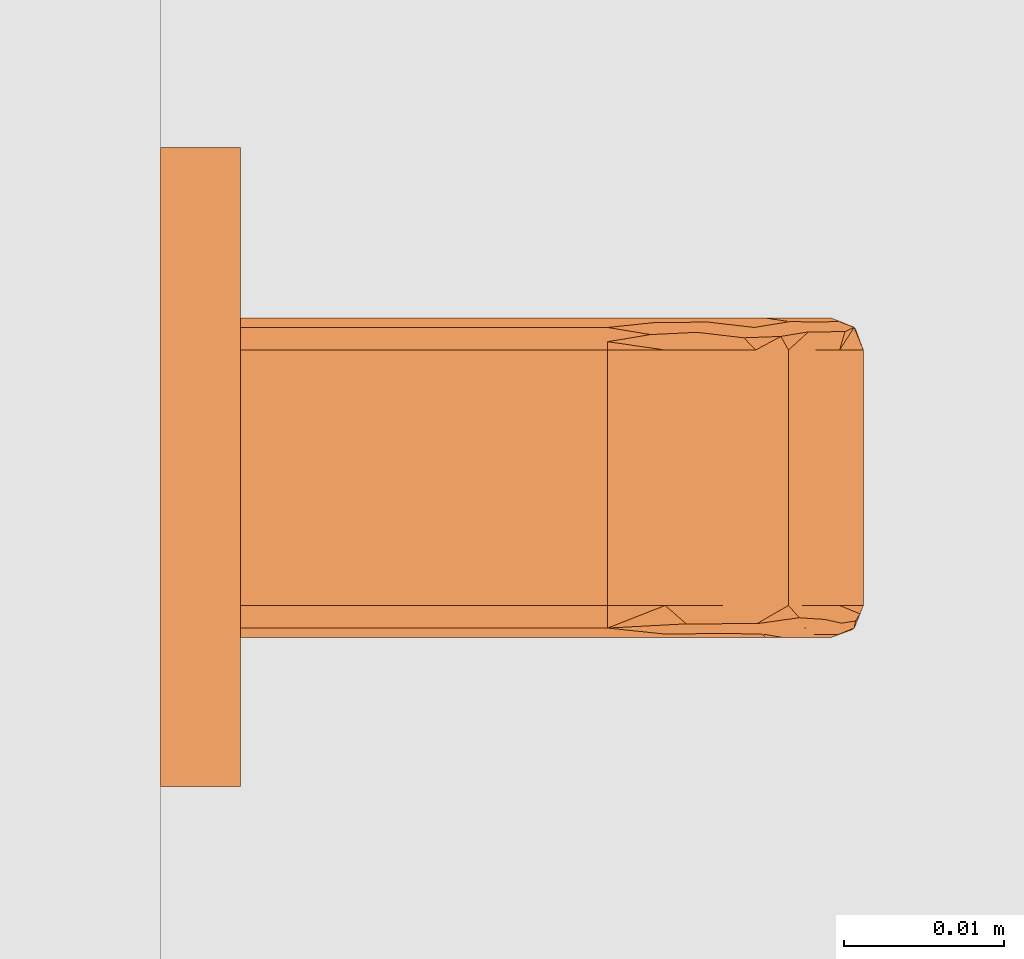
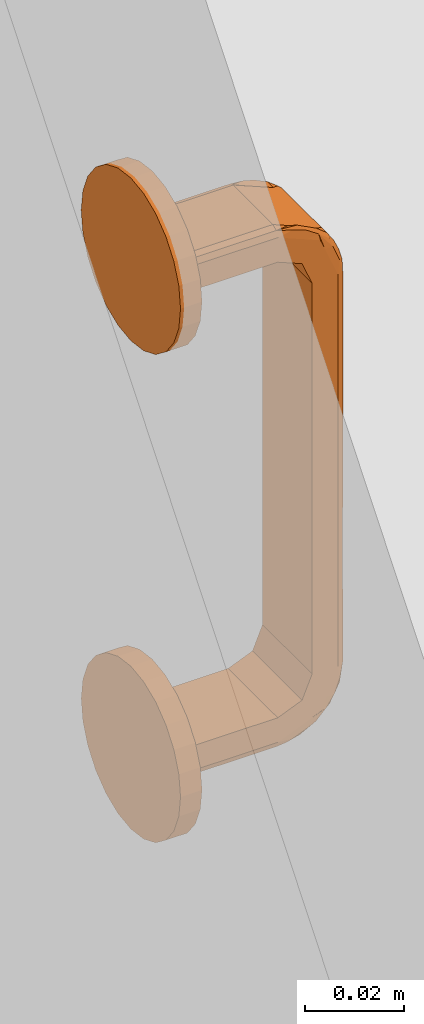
# One storey, part 51 of 67: 1 proxy.
"""IFC4 building model written with IfcOpenShell, lengths in millimetres."""

from ifc_helpers import new_model, entity, si_unit, converted_unit, direction, frame, origin, place, context, subcontext, project, spatial, polygons, source, transform, mapped, material, type_object, type_shapes, element, save


model = new_model("IFC4")

# Units and contexts
model_context = context("Model", 3, precision=0.01, world=origin(), true_north=direction((0.0, 1.0)))
body_context = subcontext(model_context, "Body", "Model", "MODEL_VIEW")
ifc_project = project(units=[si_unit("LENGTHUNIT", "METRE", prefix="MILLI"), si_unit("AREAUNIT", "SQUARE_METRE"), si_unit("VOLUMEUNIT", "CUBIC_METRE"), converted_unit("PLANEANGLEUNIT", "DEGREE", entity("IfcPlaneAngleMeasure", 0.017453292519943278), si_unit("PLANEANGLEUNIT", "RADIAN"), dimensions=[0, 0, 0, 0, 0, 0, 0])], contexts=[model_context])

# Site, building, storey, space
site_placement = place(None, origin())
site = spatial("IfcSite", under=ifc_project, at=site_placement, Name="Tomtens navn", CompositionType="ELEMENT")
building_placement = place(site_placement, origin())
building = spatial("IfcBuilding", under=site, at=building_placement, Name="Byggets navn", CompositionType="ELEMENT")
storey_placement = place(building_placement, origin())
storey = spatial("IfcBuildingStorey", under=building, at=storey_placement, Name="Level 01", CompositionType="ELEMENT", Elevation=2.1993652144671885e-25)
space_placement = place(storey_placement, origin())
space = spatial("IfcSpace", under=storey, at=space_placement, Name="102", CompositionType="ELEMENT", PredefinedType="NOTDEFINED")

# Proxy
ifc_material = material(Name="Handtag, vitt", Category="Unassigned")
building_element_proxy_type = type_object("IfcBuildingElementProxyType", Name="Handtag skåp1:Handtag skåp", PredefinedType="NOTDEFINED", material=ifc_material)
shared_shape = source(origin(), body_context, "Body", "Tessellation", [
    polygons([(8.670220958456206, 4.999999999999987, 4.021099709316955), (-7.329779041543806, 4.999999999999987, 4.021099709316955), (-8.743992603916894, 4.9999999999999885, 3.435313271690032), (-9.32977904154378, 4.999999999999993, 2.021099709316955), (-9.32977904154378, 5.0000000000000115, -4.0210997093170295), (10.67022095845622, 5.0000000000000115, -4.021099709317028), (10.67022095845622, 4.999999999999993, 2.0210997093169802), (10.084434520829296, 4.9999999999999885, 3.435313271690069), (10.67022095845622, 28.000000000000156, 2.0210997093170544), (10.084434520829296, 28.000000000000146, 3.435313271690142), (8.670220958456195, 28.000000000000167, 4.0210997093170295), (8.670220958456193, 15.654960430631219, 4.02109970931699), (10.67022095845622, 17.345040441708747, 2.02109970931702), (10.08659387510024, 16.21238630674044, 3.433150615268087), (10.67022095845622, 28.000000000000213, -4.021099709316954), (10.67022095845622, 33.64193450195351, -6.358065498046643), (10.67022095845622, 35.97890029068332, -11.999999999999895), (10.67022095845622, 35.97890029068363, -107.99999999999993), (10.67022095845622, 33.641934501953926, -113.64193450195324), (10.67022095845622, 28.000000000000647, -115.97890029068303), (10.67022095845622, 4.999999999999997, -115.97890029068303), (10.67022095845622, 4.999999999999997, -122.02109970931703), (10.67022095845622, 28.000000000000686, -122.02109970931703), (10.67022095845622, 37.914414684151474, -117.91441468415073), (10.67022095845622, 42.02109970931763, -107.99999999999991), (10.67022095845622, 42.0210997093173, -11.999999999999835), (10.67022095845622, 37.914414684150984, -2.085585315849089), (-9.32977904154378, 28.000000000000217, -4.021099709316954), (-9.32977904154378, 28.000000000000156, 2.02109970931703), (-9.32977904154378, 37.91441468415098, -2.085585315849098), (-9.32977904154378, 42.02109970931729, -11.999999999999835), (-9.32977904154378, 42.02109970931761, -107.99999999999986), (-9.32977904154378, 37.91441468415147, -117.91441468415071), (-9.32977904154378, 28.00000000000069, -122.02109970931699), (-9.32977904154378, 4.999999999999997, -122.021099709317), (-9.32977904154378, 4.999999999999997, -115.978900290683), (-9.32977904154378, 28.000000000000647, -115.97890029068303), (-9.32977904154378, 33.641934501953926, -113.64193450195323), (-9.32977904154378, 35.97890029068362, -107.99999999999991), (-9.32977904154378, 35.978900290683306, -11.999999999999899), (-9.32977904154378, 33.64193450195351, -6.358065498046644), (-7.329779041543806, 28.00000000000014, 4.0210997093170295), (-8.743992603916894, 28.000000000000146, 3.435313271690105), (-9.32977904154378, 15.654959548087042, 2.021099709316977), (-7.3297790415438, 17.34503999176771, 4.021099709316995), (-8.741829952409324, 16.21238644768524, 3.43747262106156), (10.084434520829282, 43.43531327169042, -11.999999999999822), (8.670220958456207, 44.021099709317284, -11.999999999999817), (8.670220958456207, 39.328628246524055, -0.6713717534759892), (10.67022095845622, 31.60126528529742, 0.5294067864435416), (8.670220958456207, 41.03771385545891, -4.797469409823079), (10.084434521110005, 40.40873190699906, -2.8200071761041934), (8.670220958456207, 35.20253058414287, 1.0377138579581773), (9.809043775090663, 37.34144424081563, 0.5752165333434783), (9.818751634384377, 32.92350079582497, 2.8642465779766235), (10.67022095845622, 39.96775719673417, -7.042792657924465), (10.377327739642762, 28.000000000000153, 2.7282064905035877), (8.670220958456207, 42.529406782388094, -8.398734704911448), (9.779150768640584, 42.65191997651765, -6.400304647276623), (10.431420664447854, 34.75591670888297, 1.357514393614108), (10.447049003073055, 37.64140257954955, -0.5884869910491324), (10.67022095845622, 34.7578399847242, -0.7780892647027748), (10.453824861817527, 31.52927433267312, 2.5026982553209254), (8.670220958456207, 31.601265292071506, 2.5294067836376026), (8.670220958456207, 40.18317105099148, -2.734420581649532), (9.435587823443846, 40.00295364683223, -1.6197407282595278), (9.543801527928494, 41.59747716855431, -3.9137042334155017), (10.67022095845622, 38.941085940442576, -4.564188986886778), (10.50224699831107, 40.95405539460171, -4.794062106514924), (10.477567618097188, 42.45420227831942, -8.47617064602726), (9.193272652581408, 43.80444460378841, -11.999999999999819), (9.638611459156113, 43.538770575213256, -9.303396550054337), (10.67022095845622, 40.99442845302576, -9.521396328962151), (-7.329779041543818, 44.021099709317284, -11.999999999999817), (-8.743992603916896, 43.43531327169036, -11.999999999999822), (-7.329779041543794, 39.328628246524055, -0.6713717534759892), (-7.329779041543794, 35.20253057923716, 1.0377138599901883), (-8.743992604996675, 37.179992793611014, 0.40873192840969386), (-9.32977904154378, 40.52940677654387, -8.398734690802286), (-7.329779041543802, 41.03771385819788, -4.797469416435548), (-8.468601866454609, 40.57521654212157, -2.6585557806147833), (-8.47830971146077, 42.864246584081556, -7.076499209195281), (-9.32977904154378, 32.95720734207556, -0.03224280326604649), (-9.036885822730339, 42.728206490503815, -11.999999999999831), (-7.329779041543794, 31.601265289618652, 2.529406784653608), (-8.43870885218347, 33.59969531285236, 2.6519199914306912), (-9.090978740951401, 41.357514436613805, -5.244083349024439), (-9.106607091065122, 39.41151304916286, -2.358597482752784), (-9.32977904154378, 39.22191073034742, -5.242160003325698), (-9.113382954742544, 42.502698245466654, -8.470725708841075), (-7.32977904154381, 42.52940678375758, -8.398734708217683), (-7.329779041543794, 37.26557941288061, 0.18317105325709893), (-8.095145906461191, 36.54048464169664, 1.37463273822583), (-8.18279176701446, 38.85536792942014, -0.47819170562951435), (-9.32977904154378, 35.43581101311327, -1.0589140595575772), (-7.852830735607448, 28.00000000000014, 3.8044446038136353), (-8.29816953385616, 30.69660343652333, 3.5387705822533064), (-9.060718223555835, 31.048754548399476, 2.7104148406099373), (-9.074370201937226, 34.340507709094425, 1.5930015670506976), (-9.32977904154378, 30.478603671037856, 0.9944284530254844), (-7.32977904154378, 33.664314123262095, 1.6748639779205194), (8.670220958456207, 33.664314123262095, 1.6748639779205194), (8.670220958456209, 30.748770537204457, 2.882521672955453), (-7.32977904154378, 41.67486397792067, -6.335685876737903), (8.670220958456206, 41.67486397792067, -6.335685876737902), (8.670220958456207, 40.50174611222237, -3.503528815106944), (-7.32977904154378, 36.496471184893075, 0.5017461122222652), (8.670220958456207, 36.496471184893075, 0.5017461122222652), (-7.32977904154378, 30.83215706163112, 2.847981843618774), (8.670220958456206, 42.882521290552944, -9.251228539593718), (-7.32977904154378, 42.84798184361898, -9.167842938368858), (-7.32977904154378, 40.50174611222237, -3.503528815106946), (10.084434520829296, 43.435313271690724, -107.99999999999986), (8.670220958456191, 44.0210997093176, -107.99999999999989), (10.67022095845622, 42.02109970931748, -61.380159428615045), (8.670220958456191, 44.021099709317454, -60.0000005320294), (8.670220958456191, 44.02109970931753, -83.30992070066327), (10.67022095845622, 42.021099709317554, -84.69007971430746), (8.670220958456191, 44.021099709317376, -36.690079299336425), (10.67022095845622, 42.02109970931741, -36.690079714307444), (10.67022095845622, 42.021099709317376, -24.34503985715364), (8.670220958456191, 44.02109970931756, -95.65496088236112), (8.670220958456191, 44.02109970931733, -24.34504018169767), (10.67022095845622, 42.021099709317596, -95.65496014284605), (10.084434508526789, 43.43531328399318, -90.17251993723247), (10.67022095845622, 42.02109970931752, -73.035119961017), (10.043884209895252, 43.4747328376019, -67.20763959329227), (10.084434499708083, 43.435313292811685, -30.517560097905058), (10.084434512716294, 43.435313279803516, -43.72292802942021), (10.67022095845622, 42.021099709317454, -49.03511957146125), (10.049878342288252, 43.469044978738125, -55.46284370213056), (8.67022095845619, 44.02109970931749, -71.65496114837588), (10.18815291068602, 43.32336027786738, -78.66752152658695), (8.670220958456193, 44.02109970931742, -48.34503991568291), (-7.329779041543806, 44.0210997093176, -107.99999999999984), (-8.743992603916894, 43.43531327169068, -107.99999999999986), (-7.3297790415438, 44.021099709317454, -61.38015981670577), (-9.32977904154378, 42.021099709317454, -59.999999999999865), (-9.32977904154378, 42.02109970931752, -83.30992051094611), (-7.329779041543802, 44.02109970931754, -84.69008022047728), (-9.32977904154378, 42.02109970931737, -36.69007991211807), (-7.329779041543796, 44.021099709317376, -36.69007990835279), (-7.329779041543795, 44.02109970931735, -24.345039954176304), (-9.32977904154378, 42.02109970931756, -95.65496025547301), (-9.32977904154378, 42.02109970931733, -24.345040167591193), (-7.329779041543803, 44.021099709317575, -95.65496067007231), (-8.743992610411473, 43.43531326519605, -90.17252002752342), (-7.3297790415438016, 44.0210997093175, -73.03512001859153), (-8.783412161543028, 43.39476296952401, -67.2076399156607), (-8.743992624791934, 43.4353132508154, -30.517560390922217), (-8.74399260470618, 43.43531327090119, -43.72292838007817), (-7.329779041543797, 44.02109970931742, -49.03511986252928), (-8.777724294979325, 43.40075710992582, -55.46284405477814), (-9.32977904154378, 42.02109970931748, -71.65496025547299), (-8.632039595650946, 43.53903167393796, -78.6675217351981), (-9.32977904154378, 42.02109970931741, -48.345039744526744), (10.08443452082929, 28.0000000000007, -123.43531327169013), (8.670220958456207, 28.000000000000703, -124.02109970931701), (8.670220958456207, 39.32862824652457, -119.32862824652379), (10.67022095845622, 40.52940678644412, -111.60126528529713), (8.670220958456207, 35.202530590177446, -121.03771385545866), (10.084434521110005, 37.179992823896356, -120.4087319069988), (8.670220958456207, 41.03771385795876, -115.20253058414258), (9.809043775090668, 40.575216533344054, -117.34144424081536), (9.818751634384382, 42.864246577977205, -112.9235007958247), (10.67022095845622, 32.95720734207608, -119.96775719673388), (10.377327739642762, 42.728206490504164, -107.99999999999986), (8.670220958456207, 31.601265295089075, -122.52940678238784), (9.779150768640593, 33.5996953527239, -122.65191997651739), (10.431420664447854, 41.357514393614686, -114.7559167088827), (10.447049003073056, 39.41151300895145, -117.64140257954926), (10.67022095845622, 39.2219107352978, -114.75783998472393), (10.453824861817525, 42.50269825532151, -111.52927433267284), (8.670220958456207, 42.52940678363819, -111.60126529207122), (8.670220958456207, 37.26557941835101, -120.18317105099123), (9.43558782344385, 38.38025927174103, -120.00295364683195), (9.543801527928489, 36.08629576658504, -121.59747716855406), (10.67022095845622, 35.435811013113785, -118.9410859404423), (10.50224699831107, 35.20593789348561, -120.95405539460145), (10.477567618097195, 31.523829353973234, -122.45420227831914), (9.193272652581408, 28.000000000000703, -123.80444460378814), (9.638611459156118, 30.696603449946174, -123.538770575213), (10.67022095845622, 30.47860367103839, -120.99442845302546), (-7.329779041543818, 28.000000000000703, -124.02109970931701), (-8.743992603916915, 28.0000000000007, -123.43531327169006), (-7.329779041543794, 39.32862824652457, -119.32862824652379), (-7.329779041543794, 41.03771385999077, -115.20253057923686), (-8.743992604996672, 40.40873192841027, -117.17999279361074), (-9.32977904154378, 31.601265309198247, -120.52940677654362), (-7.329779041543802, 35.20253058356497, -121.03771385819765), (-8.468601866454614, 37.34144421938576, -120.57521654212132), (-8.478309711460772, 32.92350079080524, -122.8642465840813), (-9.32977904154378, 39.967757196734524, -112.95720734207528), (-9.036885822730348, 28.000000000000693, -122.72820649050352), (-7.329779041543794, 42.529406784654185, -111.60126528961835), (-8.438708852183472, 42.65191999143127, -113.59969531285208), (-9.090978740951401, 34.75591665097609, -121.35751443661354), (-9.106607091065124, 37.64140251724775, -119.41151304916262), (-9.32977904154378, 34.75783999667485, -119.22191073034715), (-9.113382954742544, 31.529274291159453, -122.50269824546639), (-7.329779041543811, 31.601265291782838, -122.52940678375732), (-7.329779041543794, 40.18317105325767, -117.26557941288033), (-8.095145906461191, 41.37463273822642, -116.54048464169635), (-8.182791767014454, 39.52180829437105, -118.85536792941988), (-9.32977904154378, 38.941085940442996, -115.435811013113), (-7.852830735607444, 43.804444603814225, -107.99999999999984), (-8.298169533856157, 43.53877058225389, -110.69660343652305), (-9.060718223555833, 42.710414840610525, -111.04875454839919), (-9.074370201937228, 41.59300156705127, -114.34050770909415), (-9.32977904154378, 40.99442845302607, -110.47860367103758), (-7.32977904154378, 41.6748639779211, -113.66431412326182), (8.670220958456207, 41.6748639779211, -113.66431412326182), (8.670220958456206, 42.88252167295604, -110.74877053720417), (-7.32977904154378, 33.66431412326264, -121.67486397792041), (8.670220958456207, 33.66431412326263, -121.67486397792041), (8.670220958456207, 36.4964711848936, -120.50174611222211), (-7.32977904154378, 40.50174611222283, -116.4964711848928), (8.670220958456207, 40.50174611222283, -116.4964711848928), (-7.32977904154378, 42.84798184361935, -110.83215706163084), (8.670220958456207, 30.748771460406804, -122.88252129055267), (-7.329779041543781, 30.83215706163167, -122.84798184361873), (-7.32977904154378, 36.49647118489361, -120.50174611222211), (8.670220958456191, 4.99999999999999, -124.021099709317), (10.084434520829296, 4.99999999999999, -123.43531327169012), (-8.743992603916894, 4.99999999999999, -123.43531327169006), (-7.32977904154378, 4.99999999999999, -124.02109970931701), (8.670220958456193, 17.34504139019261, -124.021099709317), (10.67022095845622, 15.65496022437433, -122.02109970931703), (10.08659387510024, 16.787613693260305, -123.43315061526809), (-9.32977904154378, 17.34504010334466, -122.02109970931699), (-7.3297790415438, 15.6549594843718, -124.021099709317), (-8.741829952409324, 16.787613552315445, -123.43747262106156)], [[[4, 5, 6, 7, 8, 1, 2, 3]], [[18, 17, 40, 39]], [[226, 223, 224, 22, 21, 36, 35, 225]], [[13, 9, 57, 10]], [[14, 13, 10]], [[11, 12, 14]], [[1, 8, 12]], [[12, 8, 14]], [[13, 14, 7]], [[14, 8, 7]], [[14, 10, 11]], [[6, 15, 16, 17, 18, 19, 20, 21, 22, 228, 23, 183, 166, 178, 24, 172, 160, 25, 124, 118, 126, 115, 130, 120, 121, 26, 73, 56, 68, 27, 62, 50, 9, 13, 7]], [[15, 6, 5, 28]], [[158, 227, 223, 226, 231, 184]], [[36, 37, 38, 39, 40, 41, 28, 5, 4, 44, 29, 100, 83, 95, 30, 89, 79, 31, 145, 141, 156, 138, 154, 139, 144, 32, 210, 193, 205, 33, 199, 189, 34, 230, 35]], [[45, 42, 96, 43]], [[46, 45, 43]], [[29, 44, 46]], [[4, 3, 44]], [[44, 3, 46]], [[45, 46, 2]], [[46, 3, 2]], [[46, 43, 29]], [[2, 1, 12, 11, 42, 45]], [[21, 20, 37, 36]], [[60, 62, 61]], [[68, 56, 69]], [[66, 65, 49]], [[55, 54, 53]], [[59, 58, 105, 51]], [[67, 51, 106, 65]], [[69, 56, 70]], [[50, 60, 63]], [[55, 64, 10]], [[59, 67, 52]], [[54, 49, 108, 53]], [[72, 71, 58]], [[54, 55, 60]], [[69, 61, 68]], [[66, 52, 67]], [[68, 61, 27]], [[55, 10, 63]], [[63, 10, 57, 9]], [[71, 48, 110, 58]], [[70, 26, 47]], [[54, 60, 61]], [[63, 9, 50]], [[54, 61, 52]], [[27, 61, 62]], [[60, 50, 62]], [[63, 60, 55]], [[10, 64, 103, 11]], [[55, 53, 102, 64]], [[66, 54, 52]], [[66, 49, 54]], [[66, 67, 65]], [[67, 59, 51]], [[69, 52, 61]], [[69, 59, 52]], [[59, 69, 70]], [[70, 72, 59]], [[73, 26, 70, 56]], [[47, 71, 72]], [[47, 72, 70]], [[59, 72, 58]], [[15, 28, 41, 16]], [[41, 40, 17, 16]], [[96, 42, 109, 85]], [[79, 87, 90]], [[86, 85, 101, 77]], [[86, 99, 98]], [[93, 77, 107, 92]], [[81, 82, 87]], [[80, 82, 81]], [[78, 95, 99]], [[87, 89, 88]], [[78, 99, 86]], [[93, 94, 78]], [[82, 91, 75]], [[81, 76, 112, 80]], [[94, 93, 92]], [[88, 78, 94]], [[95, 88, 30]], [[82, 75, 90]], [[90, 75, 84, 31]], [[43, 97, 98]], [[86, 98, 97]], [[81, 87, 88]], [[90, 31, 79]], [[94, 81, 88]], [[30, 88, 89]], [[87, 79, 89]], [[90, 87, 82]], [[75, 91, 111, 74]], [[82, 80, 104, 91]], [[93, 86, 77]], [[93, 78, 86]], [[94, 76, 81]], [[76, 94, 92]], [[78, 88, 95]], [[43, 96, 97]], [[97, 96, 85]], [[86, 97, 85]], [[98, 29, 43]], [[99, 95, 83, 100]], [[100, 98, 99]], [[100, 29, 98]], [[42, 11, 103, 64, 102, 53, 108, 49, 76, 92, 107, 77, 101, 85, 109]], [[105, 58, 110, 48, 74, 111, 91, 104, 80, 112, 76, 49, 65, 106, 51]], [[47, 26, 121, 120, 130, 129, 128]], [[124, 25, 167, 113, 125, 118]], [[118, 133, 126]], [[127, 115, 126]], [[123, 48, 71, 47, 128, 129, 134, 119]], [[113, 114, 122, 117, 125]], [[129, 130, 131]], [[115, 131, 130]], [[133, 127, 126]], [[132, 116, 127]], [[125, 117, 133]], [[116, 134, 131]], [[127, 116, 131]], [[127, 131, 115]], [[134, 129, 131]], [[132, 127, 133]], [[117, 132, 133]], [[125, 133, 118]], [[75, 74, 143, 142, 152, 151, 150]], [[146, 135, 206, 136, 147, 140]], [[140, 155, 148]], [[149, 137, 148]], [[145, 31, 84, 75, 150, 151, 156, 141]], [[136, 32, 144, 139, 147]], [[151, 152, 153]], [[137, 153, 152]], [[155, 149, 148]], [[154, 138, 149]], [[147, 139, 155]], [[138, 156, 153]], [[149, 138, 153]], [[149, 153, 137]], [[156, 151, 153]], [[154, 149, 155]], [[139, 154, 155]], [[147, 155, 140]], [[74, 48, 123, 119, 134, 116, 132, 117, 122, 114, 135, 146, 140, 148, 137, 152, 142, 143]], [[170, 172, 171]], [[178, 166, 179]], [[176, 175, 159]], [[165, 164, 163]], [[169, 168, 215, 161]], [[177, 161, 216, 175]], [[179, 166, 180]], [[160, 170, 173]], [[165, 174, 113]], [[169, 177, 162]], [[164, 159, 218, 163]], [[182, 181, 168]], [[164, 165, 170]], [[179, 171, 178]], [[176, 162, 177]], [[178, 171, 24]], [[165, 113, 173]], [[173, 113, 167, 25]], [[181, 158, 220, 168]], [[180, 23, 157]], [[164, 170, 171]], [[173, 25, 160]], [[164, 171, 162]], [[24, 171, 172]], [[170, 160, 172]], [[173, 170, 165]], [[113, 174, 213, 114]], [[165, 163, 212, 174]], [[176, 164, 162]], [[176, 159, 164]], [[176, 177, 175]], [[177, 169, 161]], [[179, 162, 171]], [[179, 169, 162]], [[169, 179, 180]], [[180, 182, 169]], [[183, 23, 180, 166]], [[157, 181, 182]], [[157, 182, 180]], [[169, 182, 168]], [[18, 39, 38, 19]], [[38, 37, 20, 19]], [[206, 135, 219, 195]], [[189, 197, 200]], [[196, 195, 211, 187]], [[196, 209, 208]], [[203, 187, 217, 202]], [[191, 192, 197]], [[190, 192, 191]], [[188, 205, 209]], [[197, 199, 198]], [[188, 209, 196]], [[203, 204, 188]], [[192, 201, 185]], [[191, 186, 222, 190]], [[204, 203, 202]], [[188, 196, 203]], [[205, 198, 33]], [[192, 185, 200]], [[200, 185, 194, 34]], [[136, 207, 208]], [[196, 208, 207]], [[191, 197, 198]], [[200, 34, 189]], [[204, 191, 198]], [[33, 198, 199]], [[197, 189, 199]], [[200, 197, 192]], [[185, 201, 221, 184]], [[192, 190, 214, 201]], [[187, 203, 196]], [[188, 204, 198]], [[204, 186, 191]], [[186, 204, 202]], [[188, 198, 205]], [[136, 206, 207]], [[207, 206, 195]], [[196, 207, 195]], [[208, 32, 136]], [[209, 205, 193, 210]], [[210, 208, 209]], [[210, 32, 208]], [[135, 114, 213, 174, 212, 163, 218, 159, 186, 202, 217, 187, 211, 195, 219]], [[215, 168, 220, 158, 184, 221, 201, 214, 190, 222, 186, 159, 175, 216, 161]], [[22, 224, 228]], [[229, 228, 224]], [[223, 227, 229]], [[227, 158, 181, 157]], [[227, 157, 229]], [[228, 229, 23]], [[229, 157, 23]], [[229, 224, 223]], [[226, 225, 231]], [[232, 231, 225]], [[35, 230, 232]], [[230, 34, 194, 185]], [[230, 185, 232]], [[231, 232, 184]], [[232, 185, 184]], [[232, 225, 35]]], closed=True),
    polygons([(-20.00000000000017, 4.999999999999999, 4.9806020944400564e-15), (-19.318516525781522, 4.999999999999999, 5.176380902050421), (-17.320508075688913, 4.999999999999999, 9.999999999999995), (-14.142135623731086, 4.999999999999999, 14.142135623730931), (-10.000000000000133, 4.999999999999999, 17.320508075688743), (-5.176380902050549, 4.999999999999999, 19.318516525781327), (-1.3958834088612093e-13, 4.999999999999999, 19.99999999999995), (5.176380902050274, 4.999999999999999, 19.31851652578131), (9.99999999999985, 4.999999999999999, 17.32050807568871), (14.142135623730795, 4.999999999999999, 14.142135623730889), (17.32050807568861, 4.999999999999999, 9.999999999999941), (19.3185165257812, 4.999999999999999, 5.17638090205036), (19.999999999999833, 4.999999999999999, -1.622393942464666e-13), (19.318516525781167, 4.999999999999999, -5.176380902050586), (17.320508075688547, 4.999999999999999, -10.000000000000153), (14.142135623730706, 4.999999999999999, -14.142135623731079), (9.999999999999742, 4.999999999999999, -17.320508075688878), (5.176380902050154, 4.999999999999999, -19.31851652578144), (-2.580269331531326e-13, 4.999999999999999, -20.00000000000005), (-5.176380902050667, 4.999999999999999, -19.318516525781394), (-10.000000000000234, 4.999999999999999, -17.320508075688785), (-14.14213562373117, 4.999999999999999, -14.142135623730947), (-17.320508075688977, 4.999999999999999, -9.999999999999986), (-19.318516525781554, 4.999999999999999, -5.176380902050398), (-20.00000000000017, 0.0, 1.386238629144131e-14), (-19.318516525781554, 0.0, -5.176380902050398), (-17.320508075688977, 0.0, -9.999999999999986), (-14.14213562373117, 0.0, -14.142135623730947), (-10.000000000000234, 0.0, -17.320508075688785), (-5.176380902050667, 0.0, -19.318516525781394), (-2.580269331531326e-13, 0.0, -20.00000000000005), (5.176380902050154, 0.0, -19.31851652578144), (9.999999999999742, 0.0, -17.320508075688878), (14.142135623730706, 0.0, -14.142135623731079), (17.320508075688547, 0.0, -10.000000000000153), (19.318516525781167, 0.0, -5.176380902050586), (19.999999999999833, 0.0, -5.075939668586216e-14), (19.3185165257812, 0.0, 5.17638090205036), (17.32050807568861, 0.0, 9.999999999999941), (14.142135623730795, 0.0, 14.142135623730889), (9.99999999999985, 0.0, 17.32050807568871), (5.176380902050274, 0.0, 19.31851652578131), (-1.3958834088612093e-13, 0.0, 19.99999999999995), (-5.176380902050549, 0.0, 19.318516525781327), (-10.000000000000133, 0.0, 17.320508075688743), (-14.142135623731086, 0.0, 14.142135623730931), (-17.320508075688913, 0.0, 9.999999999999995), (-19.318516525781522, 0.0, 5.176380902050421)], [[[16, 17, 18, 19, 20, 21, 22, 23, 24, 1, 2, 3, 4, 5, 6, 7, 8, 9, 10, 11, 12, 13, 14, 15]], [[41, 42, 43, 44, 45, 46, 47, 48, 25, 26, 27, 28, 29, 30, 31, 32, 33, 34, 35, 36, 37, 38, 39, 40]], [[25, 1, 24, 26]], [[26, 24, 23, 27]], [[29, 28, 22, 21]], [[22, 28, 27, 23]], [[30, 29, 21, 20]], [[30, 20, 19, 31]], [[31, 19, 18, 32]], [[32, 18, 17, 33]], [[35, 34, 16, 15]], [[16, 34, 33, 17]], [[36, 35, 15, 14]], [[36, 14, 13, 37]], [[37, 13, 12, 38]], [[38, 12, 11, 39]], [[41, 40, 10, 9]], [[10, 40, 39, 11]], [[42, 41, 9, 8]], [[42, 8, 7, 43]], [[43, 7, 6, 44]], [[44, 6, 5, 45]], [[47, 46, 4, 3]], [[4, 46, 45, 5]], [[48, 47, 3, 2]], [[48, 2, 1, 25]]], closed=True),
    polygons([(-20.000000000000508, 4.999999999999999, -120.00000000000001), (-19.31851652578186, 4.999999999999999, -114.82361909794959), (-17.320508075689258, 4.999999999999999, -110.00000000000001), (-14.142135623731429, 4.999999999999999, -105.85786437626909), (-10.000000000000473, 4.999999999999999, -102.67949192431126), (-5.176380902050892, 4.999999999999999, -100.68148347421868), (-4.779843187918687e-13, 4.999999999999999, -100.00000000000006), (5.176380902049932, 4.999999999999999, -100.6814834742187), (9.99999999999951, 4.999999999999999, -102.6794919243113), (14.142135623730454, 4.999999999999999, -105.85786437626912), (17.32050807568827, 4.999999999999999, -110.00000000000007), (19.31851652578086, 4.999999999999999, -114.82361909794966), (19.999999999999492, 4.999999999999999, -120.00000000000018), (19.318516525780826, 4.999999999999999, -125.1763809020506), (17.320508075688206, 4.999999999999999, -130.00000000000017), (14.142135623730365, 4.999999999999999, -134.1421356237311), (9.999999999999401, 4.999999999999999, -137.3205080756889), (5.176380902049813, 4.999999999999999, -139.31851652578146), (-6.006528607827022e-13, 4.999999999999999, -140.00000000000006), (-5.176380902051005, 4.999999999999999, -139.3185165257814), (-10.000000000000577, 4.999999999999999, -137.3205080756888), (-14.142135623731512, 4.999999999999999, -134.14213562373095), (-17.32050807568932, 4.999999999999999, -130.0), (-19.31851652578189, 4.999999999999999, -125.17638090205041), (-20.000000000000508, 0.0, -120.0), (-19.31851652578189, 0.0, -125.17638090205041), (-17.32050807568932, 0.0, -130.0), (-14.142135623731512, 0.0, -134.14213562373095), (-10.000000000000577, 0.0, -137.3205080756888), (-5.176380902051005, 0.0, -139.3185165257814), (-6.006528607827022e-13, 0.0, -140.00000000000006), (5.176380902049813, 0.0, -139.31851652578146), (9.999999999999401, 0.0, -137.3205080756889), (14.142135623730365, 0.0, -134.1421356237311), (17.320508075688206, 0.0, -130.00000000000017), (19.318516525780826, 0.0, -125.1763809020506), (19.999999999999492, 0.0, -120.00000000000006), (19.31851652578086, 0.0, -114.82361909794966), (17.32050807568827, 0.0, -110.00000000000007), (14.142135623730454, 0.0, -105.85786437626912), (9.99999999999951, 0.0, -102.6794919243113), (5.176380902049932, 0.0, -100.6814834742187), (-4.779843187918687e-13, 0.0, -100.00000000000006), (-5.176380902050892, 0.0, -100.68148347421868), (-10.000000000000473, 0.0, -102.67949192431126), (-14.142135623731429, 0.0, -105.85786437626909), (-17.320508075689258, 0.0, -110.00000000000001), (-19.31851652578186, 0.0, -114.82361909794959)], [[[17, 18, 19, 20, 21, 22, 23, 24, 1, 2, 3, 4, 5, 6, 7, 8, 9, 10, 11, 12, 13, 14, 15, 16]], [[41, 42, 43, 44, 45, 46, 47, 48, 25, 26, 27, 28, 29, 30, 31, 32, 33, 34, 35, 36, 37, 38, 39, 40]], [[25, 1, 24, 26]], [[26, 24, 23, 27]], [[29, 28, 22, 21]], [[22, 28, 27, 23]], [[30, 29, 21, 20]], [[30, 20, 19, 31]], [[31, 19, 18, 32]], [[32, 18, 17, 33]], [[35, 34, 16, 15]], [[16, 34, 33, 17]], [[36, 35, 15, 14]], [[36, 14, 13, 37]], [[37, 13, 12, 38]], [[38, 12, 11, 39]], [[41, 40, 10, 9]], [[10, 40, 39, 11]], [[42, 41, 9, 8]], [[42, 8, 7, 43]], [[43, 7, 6, 44]], [[44, 6, 5, 45]], [[47, 46, 4, 3]], [[4, 46, 45, 5]], [[48, 47, 3, 2]], [[48, 2, 1, 25]]], closed=True),
])
type_shapes(building_element_proxy_type, [shared_shape])
proxy_placement = place(space_placement, frame((64165.85352810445, 20411.46645692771, 1120.0), z_axis=(0.0, 0.0, 1.0), x_axis=(0.0, -1.0, 0.0)))
element("IfcBuildingElementProxy", 1, at=proxy_placement, inside=space, type_object=building_element_proxy_type, material=ifc_material, Name="Handtag skåp1:Handtag skåp", PredefinedType="NOTDEFINED", context=body_context, shape_type="MappedRepresentation", body=[
    mapped(shared_shape, transform((0.0, 0.0, 0.0), scale=1.0)),
])

save(model, "model.ifc")
